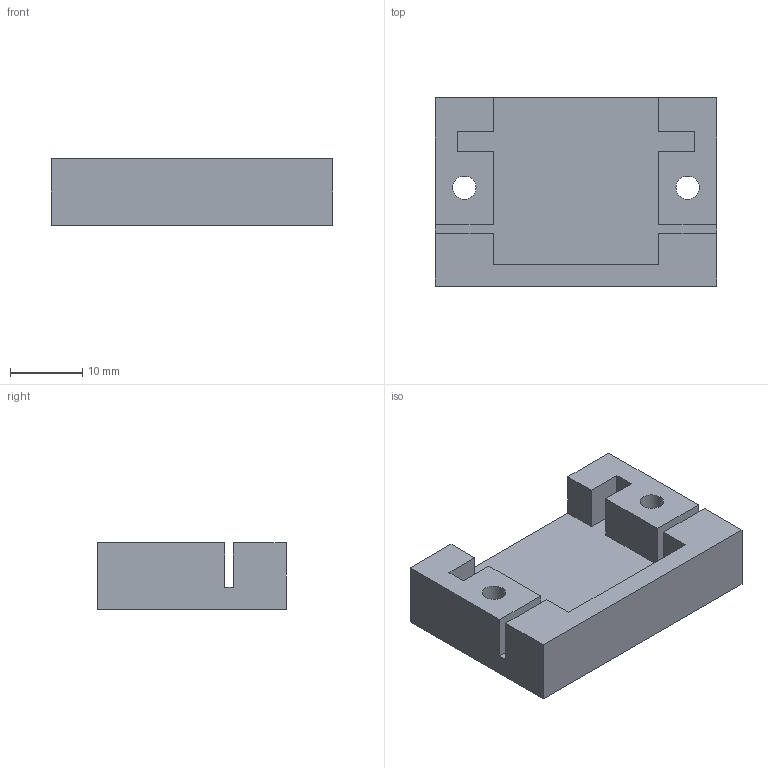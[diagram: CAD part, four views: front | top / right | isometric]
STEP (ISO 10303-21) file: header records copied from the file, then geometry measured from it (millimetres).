
FILE_DESCRIPTION(/* description */ (''),/* implementation_level */ '2;1');
FILE_NAME(/* name */ 'New Servo Cage_v11.tmp.step',/* time_stamp */ '2026-11-01T13:10:17+02:00',/* author */ (''),/* organization */ (''),/* preprocessor_version */ 'ST-DEVELOPER v20.2',/* originating_system */ 'Autodesk Translation Framework v15.15.0.0',/* authorisation */ '');
FILE_SCHEMA (('AUTOMOTIVE_DESIGN { 1 0 10303 214 3 1 1 }'));
Length unit declared in the file: millimetre
Products named in the file (1): New Servo Cage
Bounding box: 38.8 x 26 x 9.15 mm (x, y, z)
Volume: 5568 mm3; surface area: 3928.4 mm2
Topology: 1 solids, 1 shells, 28 faces, 78 edges, 52 vertices
Faces by surface type: plane 26, cylinder 2
Full cylindrical faces by diameter (mm): 3.2 x2
Entity records: 927 total; most frequent: CARTESIAN_POINT 159, ORIENTED_EDGE 156, DIRECTION 140, EDGE_CURVE 78, LINE 74, VECTOR 74, VERTEX_POINT 52, AXIS2_PLACEMENT_3D 33
